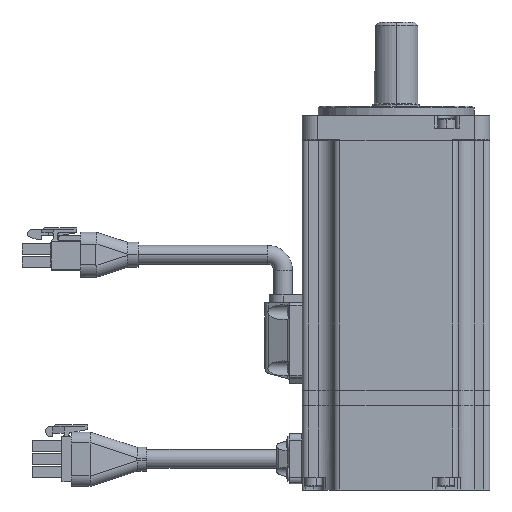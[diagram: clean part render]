
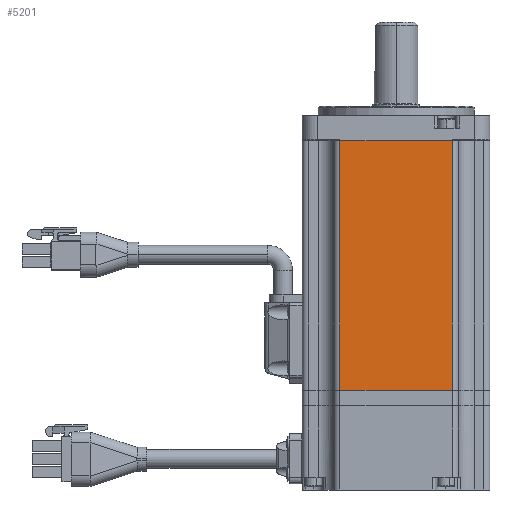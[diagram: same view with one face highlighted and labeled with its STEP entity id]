
A CAD part, left-side view. The second image highlights one B-rep face of the part: STEP entity #5201.
In plain terms, the highlighted planar face has unit normal (-1, 0, 0).
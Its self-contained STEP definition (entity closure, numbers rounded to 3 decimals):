
#2126 = CARTESIAN_POINT ( 'NONE',  ( -30.1, 20., 80. ) ) ;
#2130 = PLANE ( 'NONE',  #31217 ) ;
#2132 = DIRECTION ( 'NONE',  ( 1., 0., 0. ) ) ;
#2133 = DIRECTION ( 'NONE',  ( 0., 1., 0. ) ) ;
#5201 = ADVANCED_FACE ( 'NONE', ( #35444 ), #2130, .F. ) ;
#25091 = EDGE_LOOP ( 'NONE', ( #45708, #45796, #45523, #45509 ) ) ;
#27991 = VERTEX_POINT ( 'NONE', #40356 ) ;
#27993 = VERTEX_POINT ( 'NONE', #40357 ) ;
#28025 = VERTEX_POINT ( 'NONE', #40375 ) ;
#28030 = VERTEX_POINT ( 'NONE', #40378 ) ;
#30931 = EDGE_CURVE ( 'NONE', #27991, #27993, #41423, .T. ) ;
#30958 = EDGE_CURVE ( 'NONE', #28025, #28030, #41462, .T. ) ;
#30989 = EDGE_CURVE ( 'NONE', #28030, #27993, #41551, .T. ) ;
#30990 = EDGE_CURVE ( 'NONE', #27991, #28025, #41554, .T. ) ;
#31217 = AXIS2_PLACEMENT_3D ( 'NONE', #2126, #2132, #2133 ) ;
#35444 = FACE_OUTER_BOUND ( 'NONE', #25091, .T. ) ;
#40356 = CARTESIAN_POINT ( 'NONE',  ( -30.1, 18., 80. ) ) ;
#40357 = CARTESIAN_POINT ( 'NONE',  ( -30.1, -18., 80. ) ) ;
#40375 = CARTESIAN_POINT ( 'NONE',  ( -30.1, 18., 0. ) ) ;
#40378 = CARTESIAN_POINT ( 'NONE',  ( -30.1, -18., 0. ) ) ;
#41423 = LINE ( 'NONE', #44180, #41425 ) ;
#41425 = VECTOR ( 'NONE', #44181, 1000. ) ;
#41462 = LINE ( 'NONE', #44254, #41464 ) ;
#41464 = VECTOR ( 'NONE', #44249, 1000. ) ;
#41551 = LINE ( 'NONE', #44324, #41555 ) ;
#41554 = LINE ( 'NONE', #44326, #41558 ) ;
#41555 = VECTOR ( 'NONE', #44325, 1000. ) ;
#41558 = VECTOR ( 'NONE', #44327, 1000. ) ;
#44180 = CARTESIAN_POINT ( 'NONE',  ( -30.1, 20., 80. ) ) ;
#44181 = DIRECTION ( 'NONE',  ( 0., -1., 0. ) ) ;
#44249 = DIRECTION ( 'NONE',  ( 0., -1., 0. ) ) ;
#44254 = CARTESIAN_POINT ( 'NONE',  ( -30.1, 20., 0. ) ) ;
#44324 = CARTESIAN_POINT ( 'NONE',  ( -30.1, -18., 80. ) ) ;
#44325 = DIRECTION ( 'NONE',  ( 0., 0., 1. ) ) ;
#44326 = CARTESIAN_POINT ( 'NONE',  ( -30.1, 18., 80. ) ) ;
#44327 = DIRECTION ( 'NONE',  ( 0., 0., -1. ) ) ;
#45509 = ORIENTED_EDGE ( 'NONE', *, *, #30990, .T. ) ;
#45523 = ORIENTED_EDGE ( 'NONE', *, *, #30931, .F. ) ;
#45708 = ORIENTED_EDGE ( 'NONE', *, *, #30958, .T. ) ;
#45796 = ORIENTED_EDGE ( 'NONE', *, *, #30989, .T. ) ;
